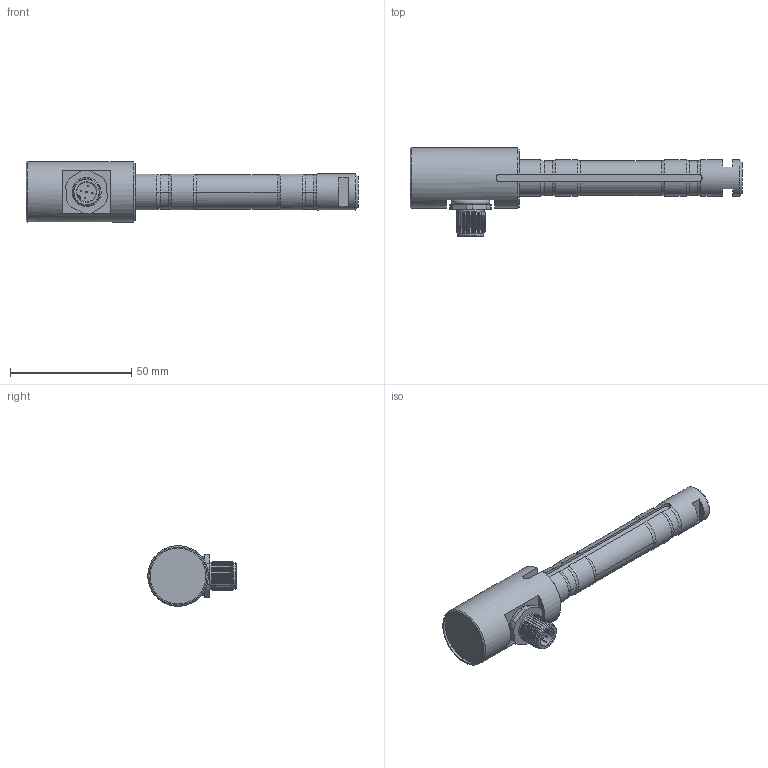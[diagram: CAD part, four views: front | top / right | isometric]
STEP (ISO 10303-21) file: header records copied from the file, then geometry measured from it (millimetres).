
FILE_DESCRIPTION(('HOOPS Exchange Step'),'2;1');
FILE_NAME('C:\Users\tom\AppData\Local\Temp\Alibre Design\export-0CAA503F-2217-4B88-A510-FD128517F6AA.stp','2021-08-19T14:36:53+02:00',('tom'),('Alibre'),'HOOPS Exchange 2021.0','Alibre','Unknown authorisation');
FILE_SCHEMA( ('AP242_MANAGED_MODEL_BASED_3D_ENGINEERING_MIM_LF {1 0 10303 442 1 1 4 }') );
Length unit declared in the file: centimetre
Products named in the file (3): mb1774_001(a); M12-5P-Stecker-mit-Farbcode; mb1774_000(a)
Assembly tree (2 placements, depth 2):
  mb1774_000(a)
    mb1774_001(a)
    M12-5P-Stecker-mit-Farbcode
Bounding box: 137 x 36.5 x 25 mm (x, y, z)
Surface area: 163399.2 mm2
Topology: 7 solids, 8 shells, 246 faces, 635 edges, 414 vertices
Faces by surface type: cone 82, cylinder 80, plane 62, torus 22
Full cylindrical faces by diameter (mm): 0.5 x10, 8 x2, 10 x1, 11 x1, 11.5 x1, 12 x21, 13 x2, 14.5 x1, 15 x1, 23 x1, 25 x1
Entity records: 8992 total; most frequent: CARTESIAN_POINT 2721, DIRECTION 1392, ORIENTED_EDGE 1284, EDGE_CURVE 635, AXIS2_PLACEMENT_3D 588, VERTEX_POINT 414, CIRCLE 334, EDGE_LOOP 267
